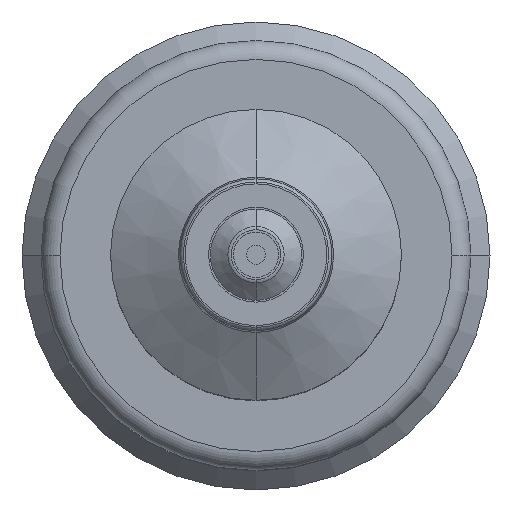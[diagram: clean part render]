
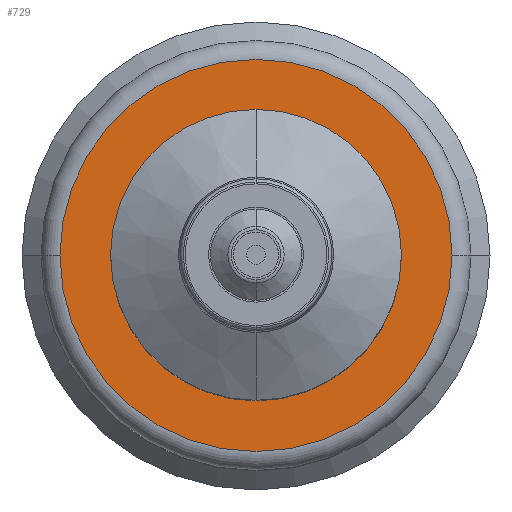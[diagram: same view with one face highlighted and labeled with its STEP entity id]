
A CAD part, top view. The second image highlights one B-rep face of the part: STEP entity #729.
In plain terms, the highlighted planar face has unit normal (0, 0, 1).
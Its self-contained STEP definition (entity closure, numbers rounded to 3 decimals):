
#352 = ORIENTED_EDGE ( 'NONE', *, *, #2035, .F. ) ;
#353 = ORIENTED_EDGE ( 'NONE', *, *, #2032, .F. ) ;
#354 = ORIENTED_EDGE ( 'NONE', *, *, #2582, .T. ) ;
#355 = ORIENTED_EDGE ( 'NONE', *, *, #2048, .T. ) ;
#377 = EDGE_LOOP ( 'NONE', ( #352, #353 ) ) ;
#378 = EDGE_LOOP ( 'NONE', ( #354, #355 ) ) ;
#729 = ADVANCED_FACE ( 'NONE', ( #3058, #3059 ), #1175, .F. ) ;
#1175 = PLANE ( 'NONE',  #3231 ) ;
#1176 = CARTESIAN_POINT ( 'NONE',  ( -31., 0., 98. ) ) ;
#1177 = DIRECTION ( 'NONE',  ( 0., 0., -1. ) ) ;
#1178 = DIRECTION ( 'NONE',  ( -1., 0., 0. ) ) ;
#2032 = EDGE_CURVE ( 'NONE', #11817, #11816, #8680, .T. ) ;
#2035 = EDGE_CURVE ( 'NONE', #11816, #11817, #8683, .T. ) ;
#2048 = EDGE_CURVE ( 'NONE', #11797, #11798, #8696, .T. ) ;
#2582 = EDGE_CURVE ( 'NONE', #11798, #11797, #11389, .T. ) ;
#3058 = FACE_BOUND ( 'NONE', #377, .T. ) ;
#3059 = FACE_OUTER_BOUND ( 'NONE', #378, .T. ) ;
#3231 = AXIS2_PLACEMENT_3D ( 'NONE', #1176, #1177, #1178 ) ;
#7571 = AXIS2_PLACEMENT_3D ( 'NONE', #8178, #8179, #8180 ) ;
#7573 = AXIS2_PLACEMENT_3D ( 'NONE', #8186, #8187, #8188 ) ;
#7586 = AXIS2_PLACEMENT_3D ( 'NONE', #8225, #8226, #8227 ) ;
#7815 = AXIS2_PLACEMENT_3D ( 'NONE', #11191, #11192, #11193 ) ;
#8178 = CARTESIAN_POINT ( 'NONE',  ( 0., 0., 98. ) ) ;
#8179 = DIRECTION ( 'NONE',  ( 0., 0., 1. ) ) ;
#8180 = DIRECTION ( 'NONE',  ( 1., 0., 0. ) ) ;
#8186 = CARTESIAN_POINT ( 'NONE',  ( 0., 0., 98. ) ) ;
#8187 = DIRECTION ( 'NONE',  ( 0., 0., 1. ) ) ;
#8188 = DIRECTION ( 'NONE',  ( 1., 0., 0. ) ) ;
#8225 = CARTESIAN_POINT ( 'NONE',  ( 0., 0., 98. ) ) ;
#8226 = DIRECTION ( 'NONE',  ( 0., 0., 1. ) ) ;
#8227 = DIRECTION ( 'NONE',  ( 1., 0., 0. ) ) ;
#8680 = CIRCLE ( 'NONE', #7571, 23. ) ;
#8683 = CIRCLE ( 'NONE', #7573, 23. ) ;
#8696 = CIRCLE ( 'NONE', #7586, 31. ) ;
#11191 = CARTESIAN_POINT ( 'NONE',  ( 0., 0., 98. ) ) ;
#11192 = DIRECTION ( 'NONE',  ( 0., 0., 1. ) ) ;
#11193 = DIRECTION ( 'NONE',  ( 1., 0., 0. ) ) ;
#11389 = CIRCLE ( 'NONE', #7815, 31. ) ;
#11611 = CARTESIAN_POINT ( 'NONE',  ( -31., 0., 98. ) ) ;
#11612 = CARTESIAN_POINT ( 'NONE',  ( 31., 0., 98. ) ) ;
#11630 = CARTESIAN_POINT ( 'NONE',  ( 0., 23., 98. ) ) ;
#11631 = CARTESIAN_POINT ( 'NONE',  ( 0., -23., 98. ) ) ;
#11797 = VERTEX_POINT ( 'NONE', #11611 ) ;
#11798 = VERTEX_POINT ( 'NONE', #11612 ) ;
#11816 = VERTEX_POINT ( 'NONE', #11630 ) ;
#11817 = VERTEX_POINT ( 'NONE', #11631 ) ;
